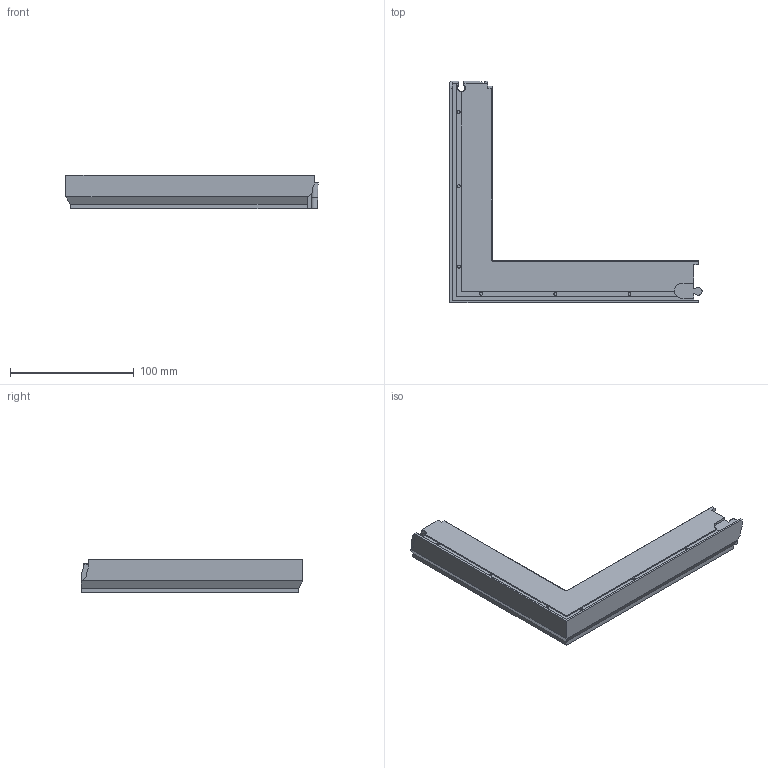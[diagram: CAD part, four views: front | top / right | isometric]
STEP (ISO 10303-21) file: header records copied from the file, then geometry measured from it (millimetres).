
FILE_DESCRIPTION(('Open CASCADE Model'),'2;1');
FILE_NAME('Open CASCADE Shape Model','2026-10-27T10:00:53',('Author'),( 'Open CASCADE'),'Open CASCADE STEP processor 8.0','build123d', 'Unknown');
FILE_SCHEMA(('AUTOMOTIVE_DESIGN { 1 0 10303 214 1 1 1 1 }'));
Products named in the file (1): SOLID
Bounding box: 203.88 x 179.1 x 27.4 mm (x, y, z)
Volume: 187451.1 mm3; surface area: 49258.9 mm2
Topology: 1 solids, 1 shells, 2260 faces, 4836 edges, 2585 vertices
Faces by surface type: bspline 1847, plane 399, cylinder 8, cone 6
Full cylindrical faces by diameter (mm): 2.4 x6
Entity records: 117152 total; most frequent: CARTESIAN_POINT 30884, DIRECTION 10930, LINE 10030, VECTOR 10030, ORIENTED_EDGE 9672, PCURVE 9672, DEFINITIONAL_REPRESENTATION 9672, EDGE_CURVE 4836
